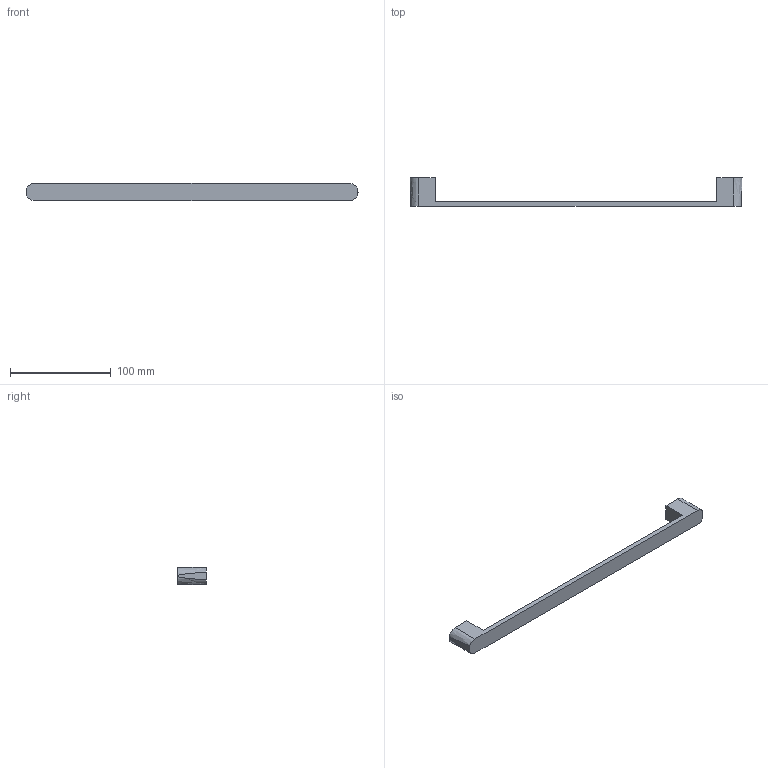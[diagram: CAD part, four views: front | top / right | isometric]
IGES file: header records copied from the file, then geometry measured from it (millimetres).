
Start section: Data from Parasolid IGES Translator 15.0.47, Copyright(c) 2006 Siemens P LM Software. All Rights Reserved.
Global section: file name: 9113491.igs; native system:  By UGS Corp.; preprocessor: XPlus GENERIC/IGES 3.0; author: Noname; organization: Noname; date: 20140122.170301; units: millimetre
Bounding box: 330 x 28 x 17 mm (x, y, z)
Surface area: 18255.3 mm2 (no closed solid volume)
Topology: 0 solids, 0 shells, 18 faces, 80 edges, 78 vertices
Faces by surface type: extrusion 12, revolution 6
